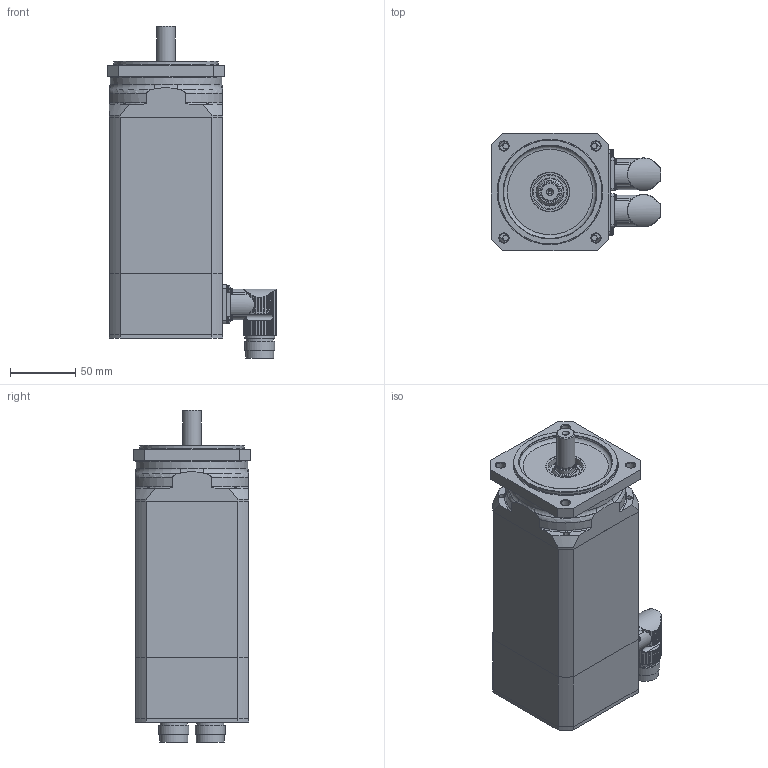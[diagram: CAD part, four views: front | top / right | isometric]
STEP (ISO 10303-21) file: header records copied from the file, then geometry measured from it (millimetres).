
FILE_DESCRIPTION(/* description */ (''),/* implementation_level */ '2;1');
FILE_NAME(/* name */ 'MR 7436-Ux-Nxxx-G01-A0D-M0',/* time_stamp */ '2007-07-13T09:50:00+01:00',/* author */ (''),/* organization */ ('ESR Pollmeier GmbH'),/* preprocessor_version */ 'ST-DEVELOPER v8',/* originating_system */ 'UNIGRAPHICS SOLUTIONS - UNIGRAPHICS 18.0',/* authorisation */ '');
FILE_SCHEMA (('AUTOMOTIVE_DESIGN { 1 2 10303 214 0 1 1 1 }'));
Length unit declared in the file: millimetre
Products named in the file (14): Gehaeuse_SY3_120_0; Rotor_SY3_0; 113036_0; DIN3760_org_A15x30x7_0; iso2009-m3x8_A; iso1580-m2.5x6_A; iso1580-m3x10_A; din128-3_A; 014257_0; 014250_0; 064205Z_0; 113035_0; 064233_0; MR7436-Ux-Nxxx-G01-A0D-M0_0
Assembly tree (26 placements, depth 2):
  MR7436-Ux-Nxxx-G01-A0D-M0_0
    064233_0
    113035_0
    064205Z_0
    014250_0
    014257_0
    din128-3_A
    iso1580-m3x10_A  x4
    iso1580-m2.5x6_A  x8
    iso2009-m3x8_A  x4
    DIN3760_org_A15x30x7_0
    113036_0
    Rotor_SY3_0
    Gehaeuse_SY3_120_0
Bounding box: 129.99 x 90 x 255.15 mm (x, y, z)
Volume: 585840.2 mm3; surface area: 233967.5 mm2
Topology: 26 solids, 26 shells, 922 faces, 2433 edges, 1593 vertices
Faces by surface type: cylinder 505, plane 257, cone 81, torus 51, sphere 20, bspline 8
Full cylindrical faces by diameter (mm): 1 x16, 1.948 x8, 2 x4, 2.135 x8, 2.387 x4, 2.459 x8, 2.5 x9, 2.7 x8, 3 x8, 3.432 x3, 3.5 x11, 4.351 x4, 5.5 x4, 6 x4, 6.5 x3, 7 x4, 10 x5, 13.52 x1, 14 x1, 15 x2, 15.3 x1, 18 x4, 20 x6, 21 x2, 21.5 x2, 23 x5, 27 x2, 29 x1, 30 x2, 32 x1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
Entity records: 24140 total; most frequent: CARTESIAN_POINT 5782, DIRECTION 3756, ORIENTED_EDGE 3454, EDGE_CURVE 1727, AXIS2_PLACEMENT_3D 1603, VERTEX_POINT 1252, EDGE_LOOP 1128, CIRCLE 818
